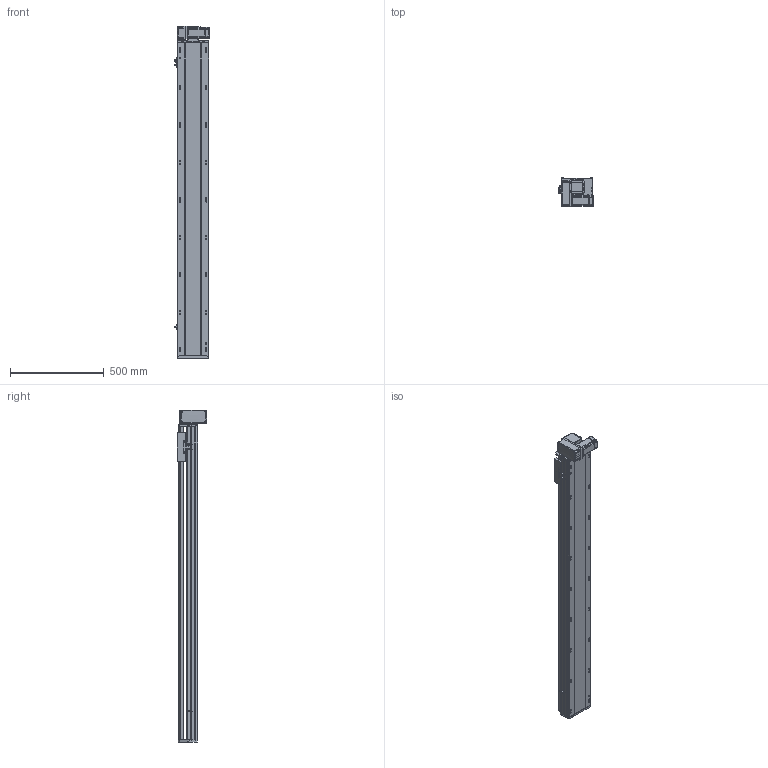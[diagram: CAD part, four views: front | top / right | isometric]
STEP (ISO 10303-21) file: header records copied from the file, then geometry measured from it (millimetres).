
FILE_DESCRIPTION (( 'STEP AP214' ), '1' );
FILE_NAME ('RTB17S-XX-1400-LM-M40-C4.STEP', '2025-12-11T06:28:52', ( '' ), ( '' ), 'SwSTEP 2.0', 'SolidWorks 2018', '' );
FILE_SCHEMA (( 'AUTOMOTIVE_DESIGN' ));
Length unit declared in the file: millimetre
Products named in the file (14): RTB14-L-008-M20--萇儂啣^RTB17S-LM-々湍釱蚾饜-400W_RTB17S-XX-XX-LM-M40-C4; RTB17S-XX-1400-LM-M40-C4; RTH13-BL-012覜茼え俋离^RTB17S-XX-XX-LM-M40-C4; RTB14-L-017P^RTB17S-LM-々湍釱蚾饜-400W_RTB17S-XX-XX-LM-M40-C4; RTB17S-L-007奻裔^RTB17S-XX-XX-LM-M40-C4; RTB17-R-011菁釱^RTB17S-XX-XX-LM-M40-C4; RTB17S-LM-々湍釱蚾饜-400W^RTB17S-XX-XX-LM-M40-C4; RTB14-L-005P--轴承塑胶压盖^RTB17S-LM-皮带座装配-400W_RTB17S-XX-XX-LM-M40-C4; 400W侜督萇儂^RTB17S-XX-XX-LM-M40-C4; RTB17S-L-004佪裝蹟譫蟀諉釱^RTB17S-XX-XX-LM-M40-C4; RTB14-L-018P^RTB17S-LM-々湍釱蚾饜-400W_RTB17S-XX-XX-LM-M40-C4; RTB17S-L-001耜醱啣^RTB17S-XX-XX-LM-M40-C4; RMP17S-L-014-T20--々湍釱^RTB17S-LM-々湍釱蚾饜-400W_RTB17S-XX-XX-LM-M40-C4; OMRON EE-SX672 传感器^RTB17S-XX-XX-LM-M40-C4
Assembly tree (16 placements, depth 3):
  RTB17S-XX-1400-LM-M40-C4
    RTB17-R-011菁釱^RTB17S-XX-XX-LM-M40-C4
    RTB17S-L-007奻裔^RTB17S-XX-XX-LM-M40-C4
    OMRON EE-SX672 传感器^RTB17S-XX-XX-LM-M40-C4  x3
    RTH13-BL-012覜茼え俋离^RTB17S-XX-XX-LM-M40-C4
    RTB17S-L-001耜醱啣^RTB17S-XX-XX-LM-M40-C4
    400W侜督萇儂^RTB17S-XX-XX-LM-M40-C4
    RTB17S-L-004佪裝蹟譫蟀諉釱^RTB17S-XX-XX-LM-M40-C4
    RTB17S-LM-々湍釱蚾饜-400W^RTB17S-XX-XX-LM-M40-C4
      RMP17S-L-014-T20--々湍釱^RTB17S-LM-々湍釱蚾饜-400W_RTB17S-XX-XX-LM-M40-C4
      RTB14-L-005P--轴承塑胶压盖^RTB17S-LM-皮带座装配-400W_RTB17S-XX-XX-LM-M40-C4
      RTB14-L-008-M20--萇儂啣^RTB17S-LM-々湍釱蚾饜-400W_RTB17S-XX-XX-LM-M40-C4
      RTB14-L-017P^RTB17S-LM-々湍釱蚾饜-400W_RTB17S-XX-XX-LM-M40-C4  x2
      RTB14-L-018P^RTB17S-LM-々湍釱蚾饜-400W_RTB17S-XX-XX-LM-M40-C4
Bounding box: 186 x 156.5 x 1772.5 mm (x, y, z)
Volume: 15638949.3 mm3; surface area: 1852882.1 mm2
Topology: 15 solids, 15 shells, 2237 faces, 6195 edges, 4041 vertices
Faces by surface type: plane 1072, cylinder 717, bspline 301, cone 139, torus 8
Entity records: 64169 total; most frequent: CARTESIAN_POINT 18000, ORIENTED_EDGE 9234, DIRECTION 8576, EDGE_CURVE 4617, VERTEX_POINT 3029, AXIS2_PLACEMENT_3D 2959, VECTOR 2658, LINE 2658
